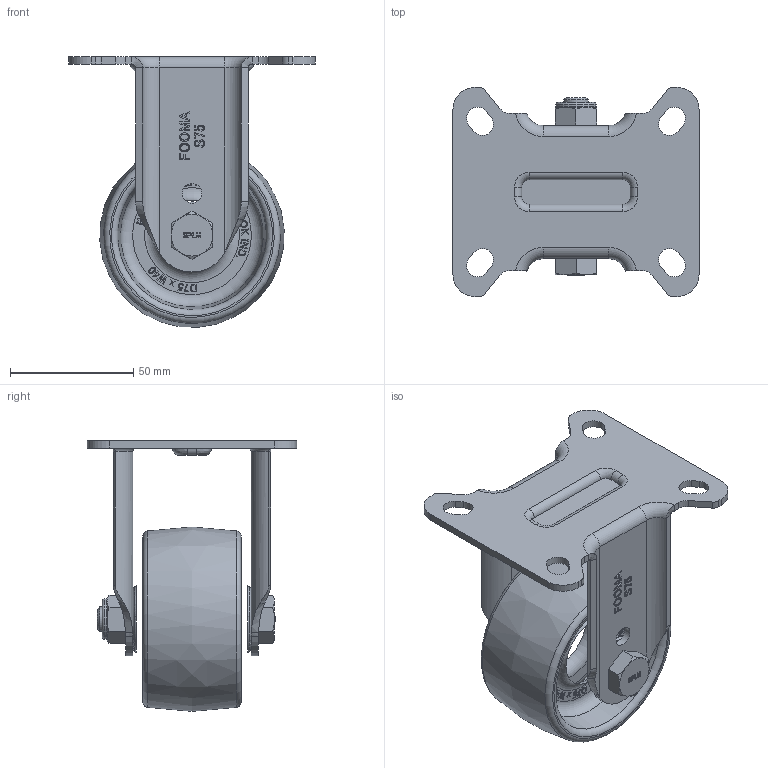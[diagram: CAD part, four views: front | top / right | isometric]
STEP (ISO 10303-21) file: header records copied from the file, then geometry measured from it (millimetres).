
FILE_DESCRIPTION(/* description */ (''),/* implementation_level */ '2;1');
FILE_NAME(/* name */ '\\192.168.10.38\지덕공유\1.기술연구소\2.연구개발 완료\완료_98.스테인레스캐스터 개발건_2023.10.26\제품설계\3D\홈페이지용\NYP\SPLM-75-ARF-NYP-PEU.step',/* time_stamp */ '2025-07-14T07:40:17+09:00',/* author */ ('admin'),/* organization */ ('지덕산업'),/* preprocessor_version */ 'ST-DEVELOPER v18.1',/* originating_system */ 'Autodesk Inventor 2021',/* authorisation */ '');
FILE_SCHEMA (('AUTOMOTIVE_DESIGN { 1 0 10303 214 3 1 1 }'));
Length unit declared in the file: millimetre
Products named in the file (1): SPLM-75-ARF-NYP-PEU
Bounding box: 100 x 85 x 109.92 mm (x, y, z)
Volume: 153546.1 mm3; surface area: 53052.9 mm2
Topology: 1 solids, 1 shells, 848 faces, 2284 edges, 1507 vertices
Faces by surface type: plane 424, bspline 328, cylinder 47, torus 26, cone 23
Full cylindrical faces by diameter (mm): 8 x2, 10 x1, 11 x1, 16.5 x1
Entity records: 27403 total; most frequent: CARTESIAN_POINT 8227, ORIENTED_EDGE 4568, DIRECTION 2840, EDGE_CURVE 2284, VERTEX_POINT 1507, LINE 1422, VECTOR 1422, EDGE_LOOP 931
